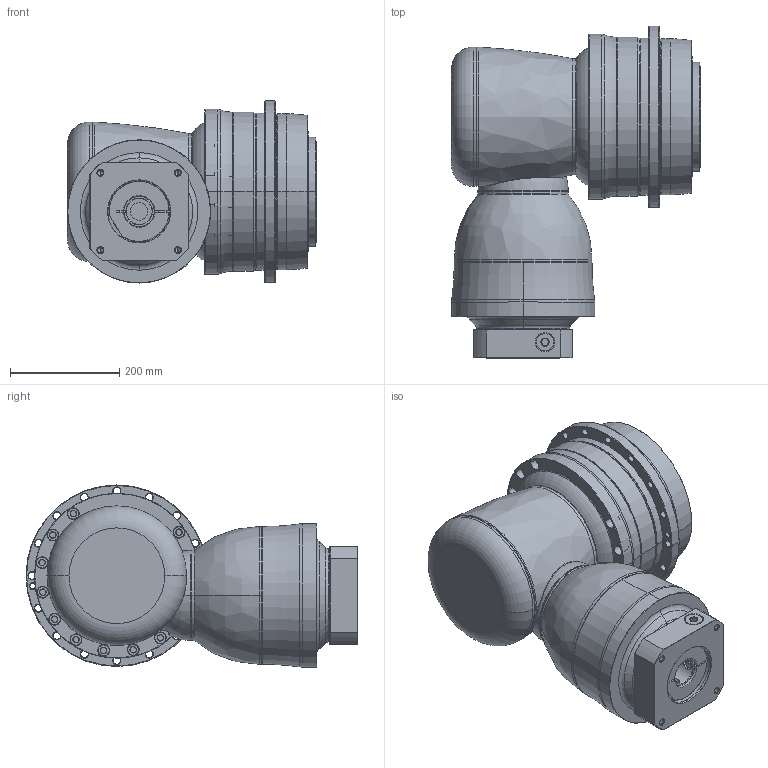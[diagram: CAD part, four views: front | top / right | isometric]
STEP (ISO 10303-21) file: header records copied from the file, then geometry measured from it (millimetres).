
FILE_DESCRIPTION((''),'2;1');
FILE_NAME('AHKB285_3ST_48-P0409B00101_ASM','2016-12-05T',('d01943'),(''),'PRO/ENGINEER BY PARAMETRIC TECHNOLOGY CORPORATION, 2008410','PRO/ENGINEER BY PARAMETRIC TECHNOLOGY CORPORATION, 2008410','');
FILE_SCHEMA(('CONFIG_CONTROL_DESIGN'));
Length unit declared in the file: millimetre
Products named in the file (12): P1008700002; P1802800001; P0278800003; P0359800003; P1315700001; P1007700001; P1317700401; P0409B00101; P0503B00016; P0912604001; 21711426021; AHKB285_3ST_48-P0409B00101_ASM
Assembly tree (11 placements, depth 2):
  AHKB285_3ST_48-P0409B00101_ASM
    P1008700002
    P1802800001
    P0278800003
    P0359800003
    P1315700001
    P1007700001
    P1317700401
    P0409B00101
    P0503B00016
    P0912604001
    21711426021
Bounding box: 455.5 x 607 x 333 mm (x, y, z)
Volume: 27355882.6 mm3; surface area: 1909437.5 mm2
Topology: 12 solids, 12 shells, 1032 faces, 2340 edges, 1349 vertices
Faces by surface type: cylinder 371, cone 362, plane 139, torus 126, bspline 32, sphere 2
Entity records: 36410 total; most frequent: CARTESIAN_POINT 12695, DIRECTION 5462, ORIENTED_EDGE 4516, AXIS2_PLACEMENT_3D 2320, EDGE_CURVE 2258, VERTEX_POINT 1349, CIRCLE 1297, EDGE_LOOP 1227
